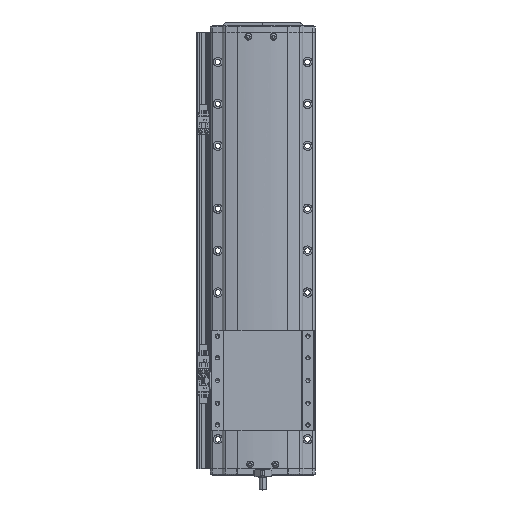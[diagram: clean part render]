
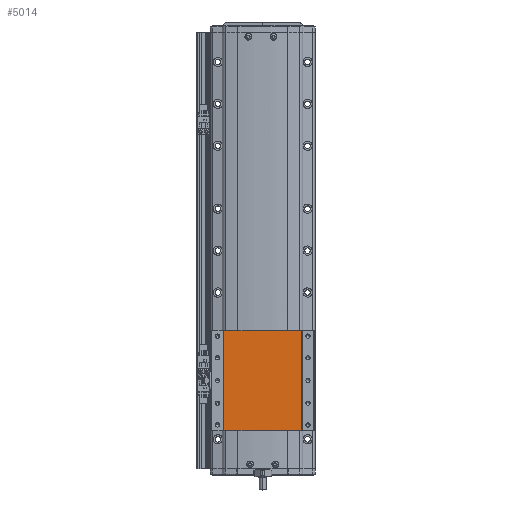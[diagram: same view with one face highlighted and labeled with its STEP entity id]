
A CAD part, top view. The second image highlights one B-rep face of the part: STEP entity #5014.
In plain terms, the highlighted planar face has unit normal (0, 0, 1).
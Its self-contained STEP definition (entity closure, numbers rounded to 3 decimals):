
#5014=ADVANCED_FACE('',(#11179),#11180,.F.);
#11179=FACE_OUTER_BOUND('',#19280,.T.);
#11180=PLANE('',#19281);
#19280=EDGE_LOOP('',(#34923,#34924,#34925,#34926));
#19281=AXIS2_PLACEMENT_3D('',#34927,#34928,#34929);
#34923=ORIENTED_EDGE('',*,*,#51282,.F.);
#34924=ORIENTED_EDGE('',*,*,#51283,.F.);
#34925=ORIENTED_EDGE('',*,*,#51284,.F.);
#34926=ORIENTED_EDGE('',*,*,#51285,.T.);
#34927=CARTESIAN_POINT('',(-300.,-82.778,36.5));
#34928=DIRECTION('',(0.,0.,-1.0));
#34929=DIRECTION('',(-1.0,0.,0.));
#51282=EDGE_CURVE('',#63396,#63397,#63398,.T.);
#51283=EDGE_CURVE('',#63399,#63396,#63400,.T.);
#51284=EDGE_CURVE('',#63401,#63399,#63402,.T.);
#51285=EDGE_CURVE('',#63401,#63397,#63403,.T.);
#63396=VERTEX_POINT('',#80285);
#63397=VERTEX_POINT('',#80286);
#63398=LINE('',#80287,#80288);
#63399=VERTEX_POINT('',#80289);
#63400=LINE('',#80290,#80291);
#63401=VERTEX_POINT('',#80292);
#63402=LINE('',#80293,#80294);
#63403=LINE('',#80295,#80296);
#80285=CARTESIAN_POINT('',(-346.376,37.222,36.5));
#80286=CARTESIAN_POINT('',(-253.624,37.222,36.5));
#80287=CARTESIAN_POINT('',(-253.624,37.222,36.5));
#80288=VECTOR('',#91849,10.0);
#80289=CARTESIAN_POINT('',(-346.376,-82.778,36.5));
#80290=CARTESIAN_POINT('',(-346.376,-82.778,36.5));
#80291=VECTOR('',#91850,10.0);
#80292=CARTESIAN_POINT('',(-253.624,-82.778,36.5));
#80293=CARTESIAN_POINT('',(-253.624,-82.778,36.5));
#80294=VECTOR('',#91851,10.0);
#80295=CARTESIAN_POINT('',(-253.624,-82.778,36.5));
#80296=VECTOR('',#91852,10.0);
#91849=DIRECTION('',(1.0,0.,0.));
#91850=DIRECTION('',(0.,1.0,0.));
#91851=DIRECTION('',(-1.0,0.,0.));
#91852=DIRECTION('',(0.,1.0,0.));
